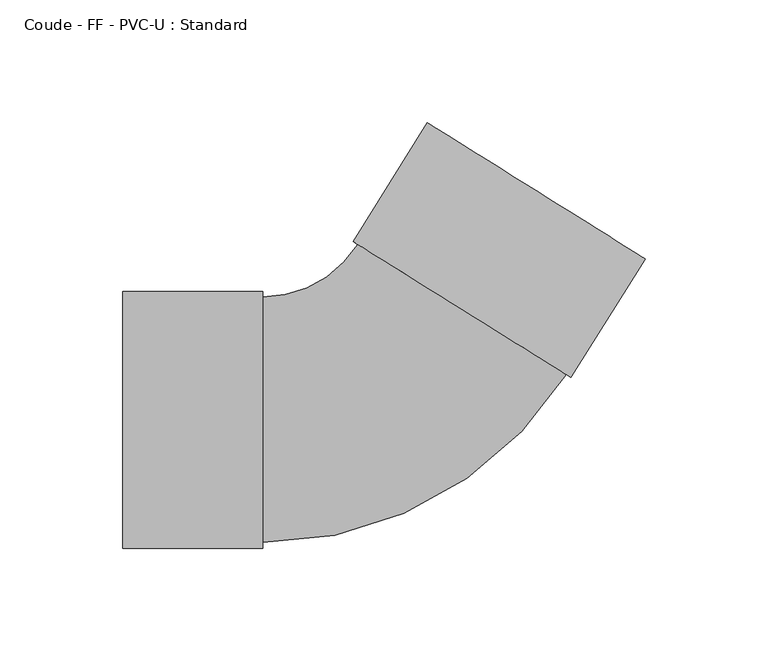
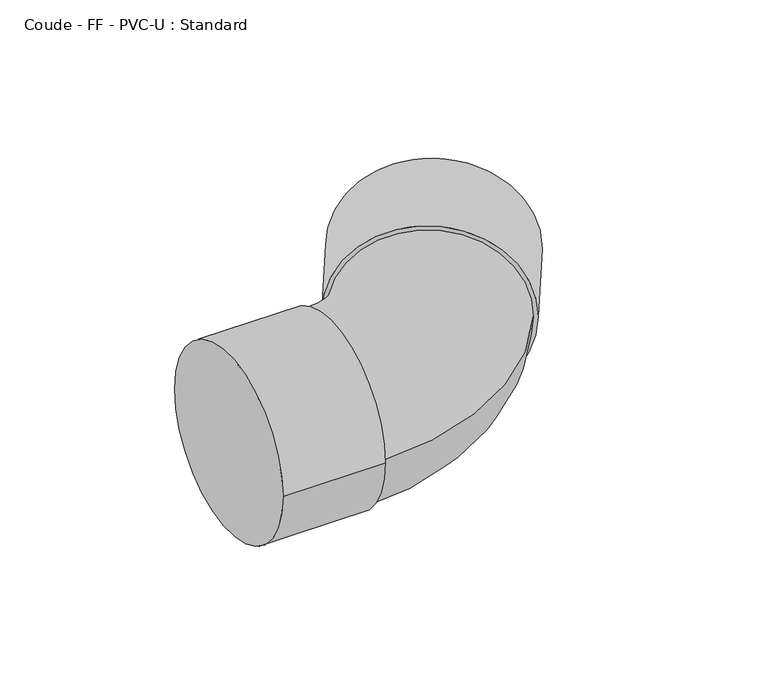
"""IFC4 building model written with IfcOpenShell, lengths in millimetres: pipe fitting geometry, Coude - FF - PVC-U : Standard."""

from ifc_helpers import new_model, si_unit, point, frame, origin, place, context, project, spatial, circle_curve, ellipse_curve, trimmed, source, transform, mapped, element, save
from ifc_brep_helpers import plane_surface, cylinder_surface, revolved_surface, advanced_brep


def coude_ff_pvc_u_standard_6f87615a(model_context):
    return source(origin(), model_context, "Body", "AdvancedBrep", [
        advanced_brep(
        [(-110.0, -52.3, 0.0), (-110.0, 52.3, 0.0), (-53.0, -52.3, 0.0), (-53.0, 52.3, 0.0), (-53.0, -50.0, 0.0), (-53.0, 50.0, 0.0), (-14.3056022, 71.4447321, 0.0), (70.4909868, 18.4396523, 0.0), (72.4413084, 17.2205354, 0.0), (-16.2559238, 72.6638489, 0.0), (102.6542039, 65.5545912, 0.0), (13.9569717, 120.9979047, 0.0)],
        [
            (0, 1, circle_curve(frame((-110.0, 0.0, 0.0), z_axis=(-1.0, 0.0, 0.0), x_axis=(0.0, 1.0, 0.0)), 52.3)),
            (1, 0, circle_curve(frame((-110.0, 0.0, 0.0), z_axis=(-1.0, 0.0, 0.0), x_axis=(0.0, 1.0, 0.0)), 52.3)),
            (2, 3, circle_curve(frame((-53.0, 0.0, 0.0), z_axis=(1.0, 0.0, 0.0), x_axis=(0.0, 1.0, 0.0)), 52.3)),
            (3, 2, circle_curve(frame((-53.0, 0.0, 0.0), z_axis=(1.0, 0.0, 0.0), x_axis=(0.0, 1.0, 0.0)), 52.3)),
            (4, 5, circle_curve(frame((-53.0, 0.0, 0.0), z_axis=(-1.0, 0.0, 0.0), x_axis=(0.0, 1.0, 0.0)), 50.0)),
            (5, 4, circle_curve(frame((-53.0, 0.0, 0.0), z_axis=(-1.0, 0.0, 0.0), x_axis=(0.0, 1.0, 0.0)), 50.0)),
            (0, 2),
            (3, 1),
            (6, 5, circle_curve(frame((-53.0, 95.6320215, 0.0), z_axis=(0.0, 0.0, -1.0), x_axis=(0.0, -1.0, 0.0)), 45.6320215)),
            (4, 7, circle_curve(frame((-53.0, 95.6320215, 0.0), z_axis=(0.0, 0.0, 1.0), x_axis=(0.0, -1.0, 0.0)), 145.6320215)),
            (7, 6, circle_curve(frame((28.0926923, 44.9421922, 0.0), z_axis=(-0.5300507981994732, -0.8479658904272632, 0.0), x_axis=(-0.8479658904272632, 0.5300507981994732, 0.0)), 50.0)),
            (6, 7, circle_curve(frame((28.0926923, 44.9421922, 0.0), z_axis=(-0.5300507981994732, -0.8479658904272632, 0.0), x_axis=(-0.8479658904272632, 0.5300507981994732, 0.0)), 50.0)),
            (8, 9, circle_curve(frame((28.0926923, 44.9421922, 0.0), z_axis=(-0.5300507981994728, -0.8479658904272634, 0.0), x_axis=(-0.8479658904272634, 0.5300507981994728, 0.0)), 52.3)),
            (9, 8, circle_curve(frame((28.0926923, 44.9421922, 0.0), z_axis=(-0.5300507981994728, -0.8479658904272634, 0.0), x_axis=(-0.8479658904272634, 0.5300507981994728, 0.0)), 52.3)),
            (10, 11, circle_curve(frame((58.3055878, 93.2762479, 0.0), z_axis=(0.5300507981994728, 0.8479658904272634, 0.0), x_axis=(-0.8479658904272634, 0.5300507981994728, 0.0)), 52.3)),
            (11, 10, circle_curve(frame((58.3055878, 93.2762479, 0.0), z_axis=(0.5300507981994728, 0.8479658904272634, 0.0), x_axis=(-0.8479658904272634, 0.5300507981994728, 0.0)), 52.3)),
            (8, 10),
            (11, 9),
        ],
        [
            plane_surface(frame((-110.0, 0.0, 0.0), z_axis=(-1.0, 0.0, 0.0), x_axis=(0.0, 0.0, 1.0))),
            plane_surface(frame((-53.0, 0.0, 0.0), z_axis=(1.0, 0.0, 0.0), x_axis=(0.0, 0.0, 1.0))),
            cylinder_surface(frame((-110.0, 0.0, 0.0), z_axis=(-1.0, 0.0, 0.0), x_axis=(0.0, 1.0, 0.0)), 52.3),
            revolved_surface(trimmed(ellipse_curve(frame((-53.0, 0.0, 0.0), z_axis=(-1.0, 0.0, 0.0), x_axis=(0.0, 1.0, 0.0)), 50.0, 50.0), [point((-53.0, -50.0, 0.0))], [point((-53.0, 50.0, 0.0))], True, "CARTESIAN"), (-53.0, 95.6320215, 0.0), (0.0, 0.0, 1.0)),
            revolved_surface(trimmed(ellipse_curve(frame((-53.0, 0.0, 0.0), z_axis=(-1.0, 0.0, 0.0), x_axis=(0.0, 1.0, 0.0)), 50.0, 50.0), [point((-53.0, 50.0, 0.0))], [point((-53.0, -50.0, 0.0))], True, "CARTESIAN"), (-53.0, 95.6320215, 0.0), (0.0, 0.0, 1.0)),
            plane_surface(frame((28.0926923, 44.9421922, 0.0), z_axis=(-0.530050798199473, -0.8479658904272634, 0.0), x_axis=(0.0, 0.0, 1.0))),
            plane_surface(frame((58.3055878, 93.2762479, 0.0), z_axis=(0.530050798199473, 0.8479658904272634, 0.0), x_axis=(0.0, 0.0, 1.0))),
            cylinder_surface(frame((28.0926923, 44.9421922, 0.0), z_axis=(-0.5300507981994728, -0.8479658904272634, 0.0), x_axis=(-0.8479658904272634, 0.5300507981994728, 0.0)), 52.3),
        ],
        [
            (0, [[1, 2]]),
            (1, [[3, 4], [5, 6]]),
            (2, [[-1, 7, -4, 8]]),
            (2, [[-2, -8, -3, -7]]),
            (3, [[9, -5, 10, 11]]),
            (4, [[-9, 12, -10, -6]]),
            (5, [[13, 14], [-11, -12]]),
            (6, [[15, 16]]),
            (7, [[-13, 17, -16, 18]]),
            (7, [[-14, -18, -15, -17]]),
        ],
    ),
    ])


if __name__ == "__main__":
    model = new_model("IFC4")
    model_context = context("Model", 3, world=origin())
    ifc_project = project(units=[si_unit("LENGTHUNIT", "METRE", prefix="MILLI")], contexts=[model_context])
    site = spatial("IfcSite", under=ifc_project)
    building = spatial("IfcBuilding", under=site)
    placement = place(None, origin())
    coude_ff_pvc_u_standard_shape = coude_ff_pvc_u_standard_6f87615a(model_context)
    element("IfcPipeFitting", 1, ObjectType="Coude - FF - PVC-U : Standard", at=placement, inside=building, context=model_context, shape_type="MappedRepresentation", body=[
        mapped(coude_ff_pvc_u_standard_shape, transform((0.0, 0.0, 0.0), x_axis=(1.0, 0.0, 0.0), y_axis=(0.0, 1.0, 0.0), z_axis=(0.0, 0.0, 1.0))),
    ])
    save(model, "model.ifc")
